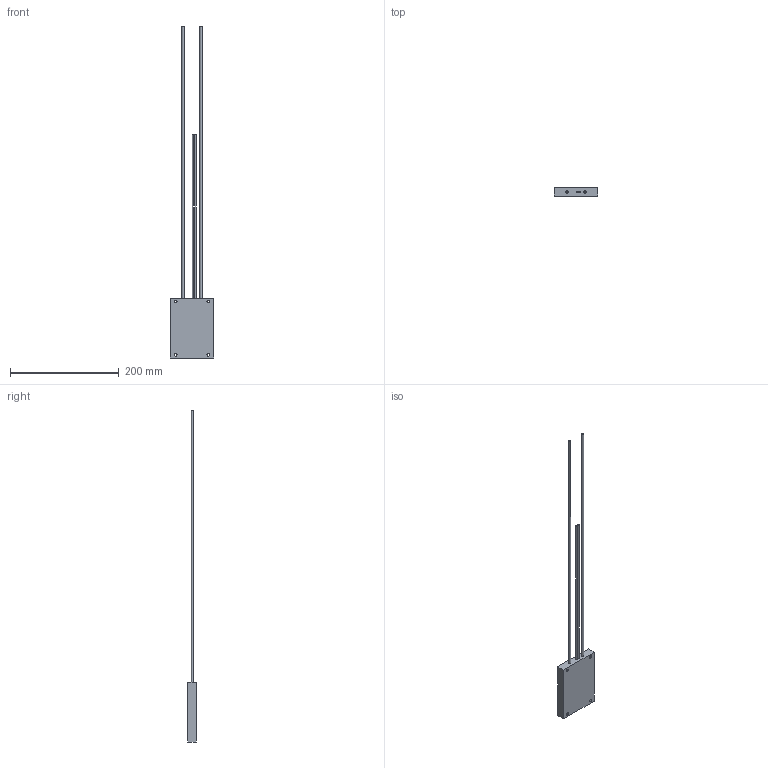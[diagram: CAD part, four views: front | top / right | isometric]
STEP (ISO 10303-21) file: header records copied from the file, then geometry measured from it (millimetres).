
FILE_DESCRIPTION(/* description */ (''),/* implementation_level */ '2;1');
FILE_NAME(/* name */ 'C:\_Vault\Dati\CATALOGO\RFD\RFDT150.stp',/* time_stamp */ '2014-03-24T17:06:17+01:00',/* author */ ('stefano'),/* organization */ (''),/* preprocessor_version */ 'ST-DEVELOPER v15.2',/* originating_system */ 'Autodesk Inventor 2014',/* authorisation */ '');
FILE_SCHEMA (('AUTOMOTIVE_DESIGN { 1 0 10303 214 3 1 1 }'));
Length unit declared in the file: millimetre
Products named in the file (1): RFDT150
Bounding box: 80 x 15 x 610.1 mm (x, y, z)
Volume: 146334.5 mm3; surface area: 41366.4 mm2
Topology: 1 solids, 1 shells, 26 faces, 52 edges, 36 vertices
Faces by surface type: plane 14, cylinder 12
Full cylindrical faces by diameter (mm): 1.5 x2, 2 x2, 2.5 x2, 4 x2, 5 x4
Entity records: 708 total; most frequent: DIRECTION 114, CARTESIAN_POINT 95, ORIENTED_EDGE 72, EDGE_LOOP 54, AXIS2_PLACEMENT_3D 51, EDGE_CURVE 36, FACE_BOUND 35, VERTEX_POINT 32
